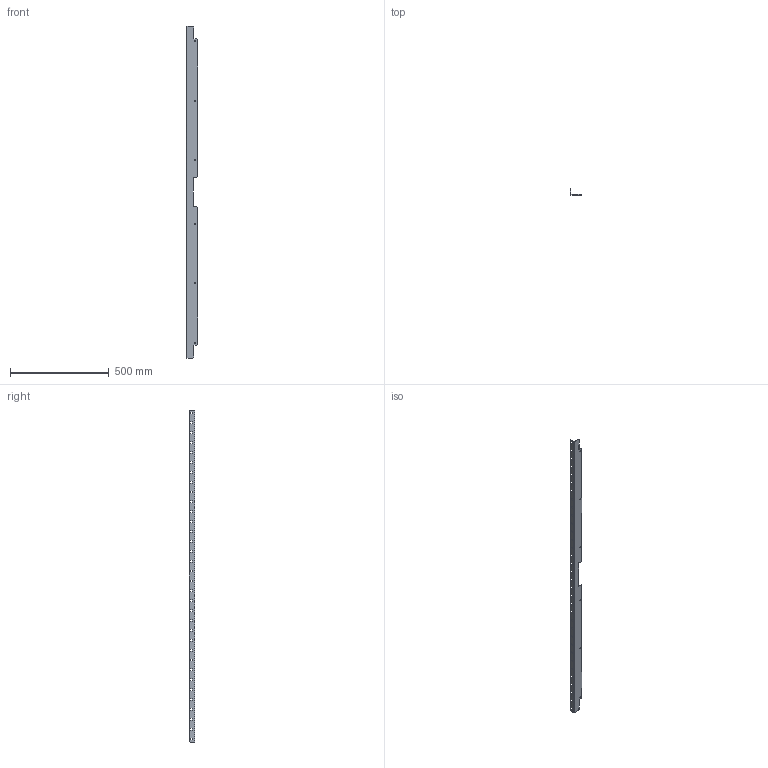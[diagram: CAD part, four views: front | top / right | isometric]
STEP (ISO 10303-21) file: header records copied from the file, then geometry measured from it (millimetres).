
FILE_DESCRIPTION (( 'STEP AP203' ), '1' );
FILE_NAME ('Äåðæàòåëü ïëàñòðîíîâ 1800 ìì.STEP', '2025-02-19T15:31:07', ( '' ), ( '' ), 'SwSTEP 2.0', 'SolidWorks 2021', '' );
FILE_SCHEMA (( 'CONFIG_CONTROL_DESIGN' ));
Length unit declared in the file: millimetre
Products named in the file (1): Äåðæàòåëü ïëàñòðîíîâ 1800 ìì
Bounding box: 56 x 28.5 x 1680 mm (x, y, z)
Volume: 130097.4 mm3; surface area: 265136.7 mm2
Topology: 1 solids, 1 shells, 178 faces, 520 edges, 344 vertices
Faces by surface type: plane 164, cylinder 14
Entity records: 6025 total; most frequent: CARTESIAN_POINT 1043, ORIENTED_EDGE 1040, DIRECTION 906, EDGE_CURVE 520, LINE 492, VECTOR 492, VERTEX_POINT 344, EDGE_LOOP 258
